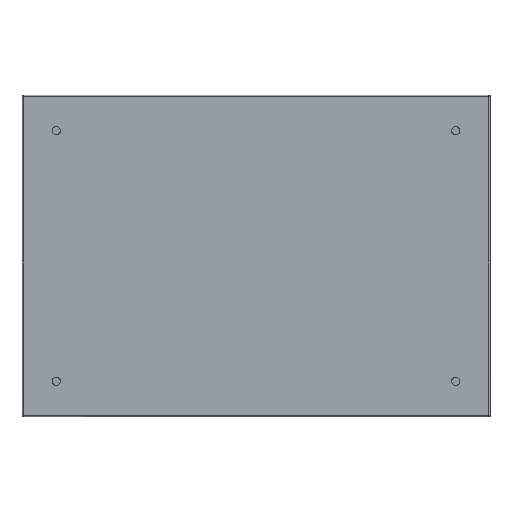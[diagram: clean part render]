
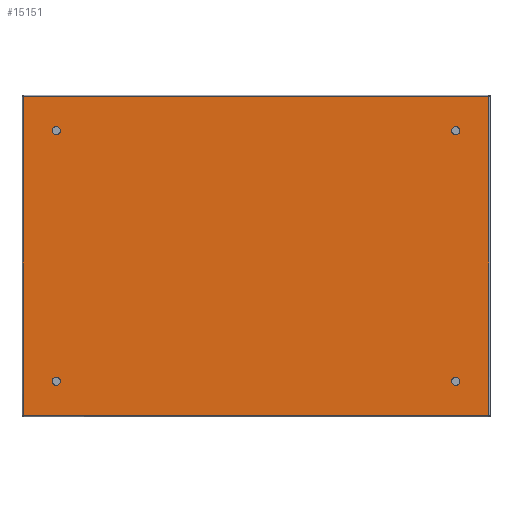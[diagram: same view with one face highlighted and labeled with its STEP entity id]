
A CAD part, top view. The second image highlights one B-rep face of the part: STEP entity #15151.
In plain terms, the highlighted planar face has unit normal (0, 0, 1).
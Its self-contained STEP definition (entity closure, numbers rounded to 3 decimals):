
#9351=CARTESIAN_POINT(' ',(791.7,542.7,0.));
#9352=VERTEX_POINT(' ',#9351);
#10101=CARTESIAN_POINT(' ',(791.7,2.3,0.));
#10102=VERTEX_POINT(' ',#10101);
#11066=CARTESIAN_POINT(' ',(791.7,542.7,0.));
#11071=DIRECTION(' ',(0.,-1.,0.));
#11076=VECTOR(' ',#11071,1.);
#11081=LINE('',#11066,#11076);
#11086=EDGE_CURVE(' ',#9352,#10102,#11081,.T.);
#13186=CARTESIAN_POINT(' ',(2.3,2.3,0.));
#13187=VERTEX_POINT(' ',#13186);
#13781=CARTESIAN_POINT(' ',(2.3,542.7,0.));
#13782=VERTEX_POINT(' ',#13781);
#15021=DIRECTION(' ',(-0.,-0.,1.));
#15026=CARTESIAN_POINT(' ',(791.7,2.3,0.));
#15031=DIRECTION(' ',(0.,1.,0.));
#15036=AXIS2_PLACEMENT_3D(' ',#15026,#15021,#15031);
#15041=PLANE('NONE',#15036);
#15046=CARTESIAN_POINT(' ',(2.3,2.3,0.));
#15051=DIRECTION(' ',(1.,0.,0.));
#15056=VECTOR(' ',#15051,1.);
#15061=LINE('',#15046,#15056);
#15066=EDGE_CURVE(' ',#13187,#10102,#15061,.T.);
#15071=ORIENTED_EDGE(' ',*,*,#15066,.T.);
#15076=ORIENTED_EDGE(' ',*,*,#11086,.F.);
#15081=CARTESIAN_POINT(' ',(791.7,542.7,0.));
#15086=DIRECTION(' ',(-1.,0.,0.));
#15091=VECTOR(' ',#15086,1.);
#15096=LINE('',#15081,#15091);
#15101=EDGE_CURVE(' ',#9352,#13782,#15096,.T.);
#15106=ORIENTED_EDGE(' ',*,*,#15101,.T.);
#15111=CARTESIAN_POINT(' ',(2.3,542.7,0.));
#15116=DIRECTION(' ',(0.,-1.,0.));
#15121=VECTOR(' ',#15116,1.);
#15126=LINE('',#15111,#15121);
#15131=EDGE_CURVE(' ',#13782,#13187,#15126,.T.);
#15136=ORIENTED_EDGE(' ',*,*,#15131,.T.);
#15141=EDGE_LOOP(' ',(#15071,#15076,#15106,#15136));
#15146=FACE_OUTER_BOUND(' ',#15141,.T.);
#15151=ADVANCED_FACE('NONE',(#15146),#15041,.T.);
